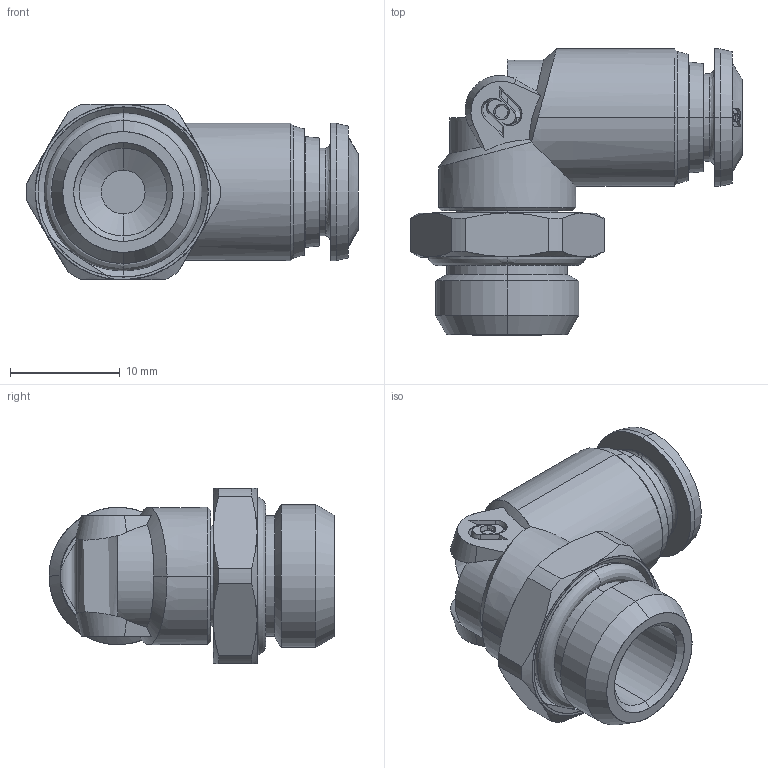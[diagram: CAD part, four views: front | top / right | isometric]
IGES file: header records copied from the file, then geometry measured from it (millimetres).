
Start section: SolidWorks IGES file using analytic representation for surfaces
Global section: file name: K:\Disegni Esecutivi\Serie 50000\ASSIEMI\50116\ASSIEMI_PIENI_50116\5011600009.IGS; native system: SolidWorks 2007; preprocessor: SolidWorks 2007; author: cad02; date: 071011.101650; units: millimetre
Bounding box: 30.25 x 26.05 x 16 mm (x, y, z)
Surface area: 3169 mm2 (no closed solid volume)
Topology: 0 solids, 0 shells, 233 faces, 2913 edges, 2912 vertices
Faces by surface type: bspline 121, revolution 112
